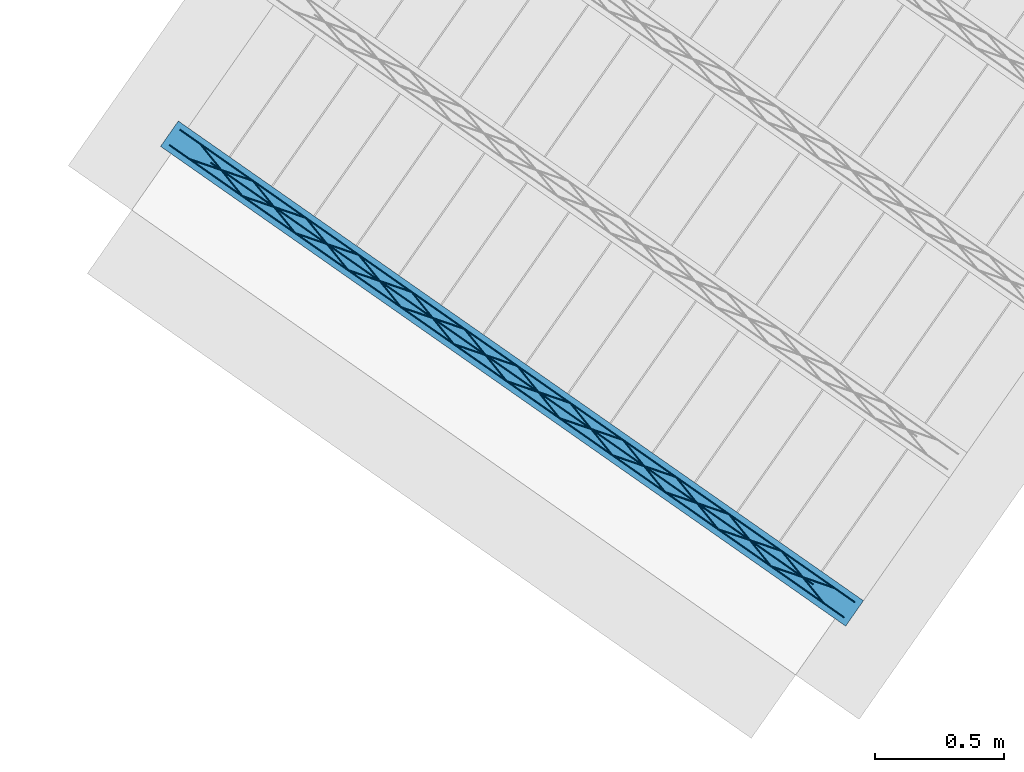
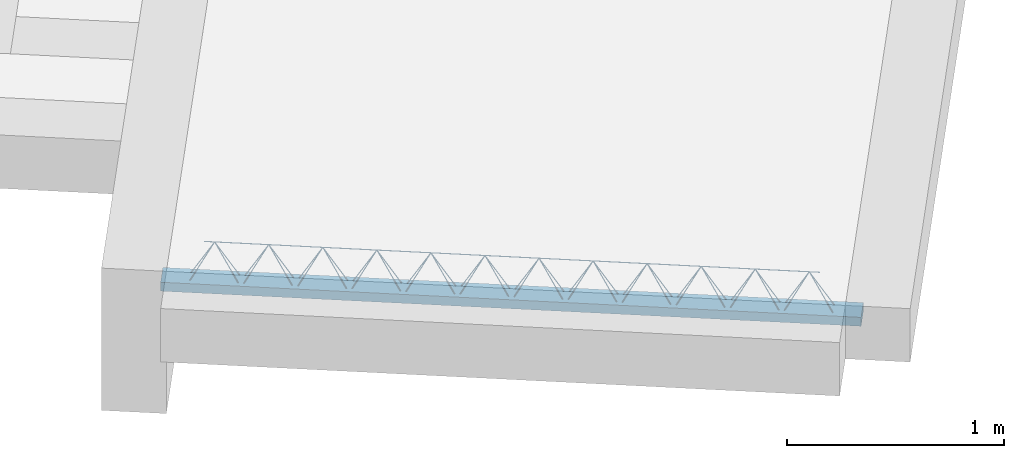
# One storey, part 1 of 46: 1 beam, 1 member.
"""IFC2X3 building model written with IfcOpenShell, lengths in metres."""

from ifc_helpers import new_model, entity, si_unit, converted_unit, derived_unit, direction, frame, frame_2d, origin, origin_2d_with_axis, place, context, subcontext, project, spatial, rectangle, circle, extrude, material, type_object, element, save


model = new_model("IFC2X3")

# Units and contexts
model_context = context("Model", 3, precision=1e-05, world=origin(), true_north=direction((6.123031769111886e-17, 1.0)))
body_context = subcontext(model_context, "Body", "Model", "MODEL_VIEW")
ifc_project = project(units=[si_unit("LENGTHUNIT", "METRE"), si_unit("AREAUNIT", "SQUARE_METRE"), si_unit("VOLUMEUNIT", "CUBIC_METRE"), converted_unit("PLANEANGLEUNIT", "DEGREE", entity("IfcPlaneAngleMeasure", 0.017453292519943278), si_unit("PLANEANGLEUNIT", "RADIAN"), dimensions=[0, 0, 0, 0, 0, 0, 0]), si_unit("MASSUNIT", "GRAM", prefix="KILO"), derived_unit("MASSDENSITYUNIT", [(si_unit("MASSUNIT", "GRAM", prefix="KILO"), 1), (si_unit("LENGTHUNIT", "METRE"), -3)]), derived_unit("IONCONCENTRATIONUNIT", [(si_unit("MASSUNIT", "GRAM", prefix="KILO"), 1), (si_unit("LENGTHUNIT", "METRE"), -3)]), derived_unit("MOMENTOFINERTIAUNIT", [(si_unit("LENGTHUNIT", "METRE"), 4)]), si_unit("TIMEUNIT", "SECOND"), si_unit("FREQUENCYUNIT", "HERTZ"), si_unit("THERMODYNAMICTEMPERATUREUNIT", "DEGREE_CELSIUS"), derived_unit("THERMALTRANSMITTANCEUNIT", [(si_unit("MASSUNIT", "GRAM", prefix="KILO"), 1), (si_unit("THERMODYNAMICTEMPERATUREUNIT", "KELVIN"), -1), (si_unit("TIMEUNIT", "SECOND"), -3)]), derived_unit("THERMALCONDUCTANCEUNIT", [(si_unit("MASSUNIT", "GRAM", prefix="KILO"), 1), (si_unit("THERMODYNAMICTEMPERATUREUNIT", "KELVIN"), -1), (si_unit("TIMEUNIT", "SECOND"), -3), (si_unit("LENGTHUNIT", "METRE"), 1)]), derived_unit("VOLUMETRICFLOWRATEUNIT", [(si_unit("LENGTHUNIT", "METRE", prefix="DECI"), 3), (si_unit("TIMEUNIT", "SECOND"), -1)]), derived_unit("MASSFLOWRATEUNIT", [(si_unit("MASSUNIT", "GRAM", prefix="KILO"), 1), (si_unit("TIMEUNIT", "SECOND"), -1)]), derived_unit("ROTATIONALFREQUENCYUNIT", [(si_unit("TIMEUNIT", "SECOND"), -1)]), si_unit("ELECTRICCURRENTUNIT", "AMPERE"), si_unit("ELECTRICVOLTAGEUNIT", "VOLT"), si_unit("POWERUNIT", "WATT"), si_unit("FORCEUNIT", "NEWTON", prefix="KILO"), si_unit("ILLUMINANCEUNIT", "LUX"), si_unit("LUMINOUSFLUXUNIT", "LUMEN"), si_unit("LUMINOUSINTENSITYUNIT", "CANDELA"), si_unit("ENERGYUNIT", "JOULE"), derived_unit("USERDEFINED", [(si_unit("MASSUNIT", "GRAM", prefix="KILO"), -1), (si_unit("LENGTHUNIT", "METRE"), -2), (si_unit("TIMEUNIT", "SECOND"), 3), (si_unit("LUMINOUSFLUXUNIT", "LUMEN"), 1)]), derived_unit("USERDEFINED", [(si_unit("MASSUNIT", "GRAM", prefix="KILO"), 1), (si_unit("TIMEUNIT", "SECOND"), -3), (si_unit("LENGTHUNIT", "METRE"), 3), (si_unit("ELECTRICCURRENTUNIT", "AMPERE"), -2)]), derived_unit("SOUNDPOWERUNIT", [(si_unit("MASSUNIT", "GRAM", prefix="KILO"), 1), (si_unit("TIMEUNIT", "SECOND"), -3), (si_unit("LENGTHUNIT", "METRE"), 2)]), derived_unit("SOUNDPRESSUREUNIT", [(si_unit("MASSUNIT", "GRAM", prefix="KILO"), 1), (si_unit("LENGTHUNIT", "METRE"), -1), (si_unit("TIMEUNIT", "SECOND"), -2)]), derived_unit("LINEARVELOCITYUNIT", [(si_unit("LENGTHUNIT", "METRE"), 1), (si_unit("TIMEUNIT", "SECOND"), -1)]), si_unit("PRESSUREUNIT", "PASCAL"), derived_unit("USERDEFINED", [(si_unit("MASSUNIT", "GRAM", prefix="KILO"), 1), (si_unit("LENGTHUNIT", "METRE"), -2), (si_unit("TIMEUNIT", "SECOND"), -2)]), derived_unit("LINEARFORCEUNIT", [(si_unit("MASSUNIT", "GRAM", prefix="KILO"), 1), (si_unit("TIMEUNIT", "SECOND"), -2)]), derived_unit("PLANARFORCEUNIT", [(si_unit("MASSUNIT", "GRAM", prefix="KILO"), 1), (si_unit("LENGTHUNIT", "METRE"), -1), (si_unit("TIMEUNIT", "SECOND"), -2)]), derived_unit("SPECIFICHEATCAPACITYUNIT", [(si_unit("THERMODYNAMICTEMPERATUREUNIT", "KELVIN"), -1), (si_unit("LENGTHUNIT", "METRE"), 2), (si_unit("TIMEUNIT", "SECOND"), -2)]), derived_unit("HEATFLUXDENSITYUNIT", [(si_unit("MASSUNIT", "GRAM", prefix="KILO"), 1), (si_unit("TIMEUNIT", "SECOND"), -3)]), derived_unit("HEATINGVALUEUNIT", [(si_unit("LENGTHUNIT", "METRE"), 2), (si_unit("TIMEUNIT", "SECOND"), -2)]), derived_unit("VAPORPERMEABILITYUNIT", [(si_unit("LENGTHUNIT", "METRE"), -1), (si_unit("TIMEUNIT", "SECOND"), 1)]), derived_unit("DYNAMICVISCOSITYUNIT", [(si_unit("MASSUNIT", "GRAM", prefix="KILO"), 1), (si_unit("TIMEUNIT", "SECOND"), -1), (si_unit("LENGTHUNIT", "METRE"), -1)]), derived_unit("THERMALEXPANSIONCOEFFICIENTUNIT", [(si_unit("THERMODYNAMICTEMPERATUREUNIT", "KELVIN"), -1)]), derived_unit("MODULUSOFELASTICITYUNIT", [(si_unit("MASSUNIT", "GRAM", prefix="KILO"), 1), (si_unit("LENGTHUNIT", "METRE"), -1), (si_unit("TIMEUNIT", "SECOND"), -2)]), derived_unit("ISOTHERMALMOISTURECAPACITYUNIT", [(si_unit("MASSUNIT", "GRAM", prefix="KILO"), -1), (si_unit("LENGTHUNIT", "METRE"), 3)]), derived_unit("MOISTUREDIFFUSIVITYUNIT", [(si_unit("TIMEUNIT", "SECOND"), -1), (si_unit("LENGTHUNIT", "METRE"), 2)]), derived_unit("MASSPERLENGTHUNIT", [(si_unit("MASSUNIT", "GRAM", prefix="KILO"), 1), (si_unit("LENGTHUNIT", "METRE"), -1)]), derived_unit("THERMALRESISTANCEUNIT", [(si_unit("MASSUNIT", "GRAM", prefix="KILO"), -1), (si_unit("TIMEUNIT", "SECOND"), 3), (si_unit("THERMODYNAMICTEMPERATUREUNIT", "KELVIN"), 1)]), derived_unit("ACCELERATIONUNIT", [(si_unit("LENGTHUNIT", "METRE"), 1), (si_unit("TIMEUNIT", "SECOND"), -2)]), derived_unit("ANGULARVELOCITYUNIT", [(si_unit("TIMEUNIT", "SECOND"), -1), (si_unit("PLANEANGLEUNIT", "RADIAN"), 1)]), derived_unit("LINEARSTIFFNESSUNIT", [(si_unit("MASSUNIT", "GRAM", prefix="KILO"), 1), (si_unit("TIMEUNIT", "SECOND"), -2)]), derived_unit("WARPINGCONSTANTUNIT", [(si_unit("LENGTHUNIT", "METRE"), 6)]), derived_unit("LINEARMOMENTUNIT", [(si_unit("MASSUNIT", "GRAM", prefix="KILO"), 1), (si_unit("LENGTHUNIT", "METRE"), 1), (si_unit("TIMEUNIT", "SECOND"), -2)]), derived_unit("TORQUEUNIT", [(si_unit("MASSUNIT", "GRAM", prefix="KILO"), 1), (si_unit("LENGTHUNIT", "METRE"), 2), (si_unit("TIMEUNIT", "SECOND"), -2)])], contexts=[model_context])

# Site, building, storey
site_placement = place(None, origin())
site = spatial("IfcSite", under=ifc_project, at=site_placement, Name="Default", CompositionType="ELEMENT")
building_placement = place(site_placement, origin())
building = spatial("IfcBuilding", under=site, at=building_placement, CompositionType="ELEMENT")
storey_placement = place(building_placement, frame((0.0, 0.0, 99.52000000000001)))
storey = spatial("IfcBuildingStorey", under=building, at=storey_placement, Name="F1", CompositionType="ELEMENT", Elevation=99.52000000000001)

# Member
member_type = type_object("IfcMemberType", Name="Celosía (Vigueta 1 - Paño 4)", PredefinedType="NOTDEFINED")
member_placement = place(storey_placement, origin())
element("IfcMember", 1, at=member_placement, inside=storey, type_object=member_type, Name="Celosía (Vigueta 1 - Paño 4)", context=body_context, shape_type="SweptSolid", body=[
    extrude(circle(Radius=0.0025, at=origin_2d_with_axis()), frame((4.454430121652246, -3.8340549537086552, 0.22500000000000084), z_axis=(0.8191520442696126, -0.5735764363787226, 0.0), x_axis=(-0.5735764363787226, -0.8191520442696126, 0.0)), (0.0, 0.0, 1.0), 3.191999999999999),
    extrude(circle(Radius=0.0025, at=origin_2d_with_axis()), frame((4.615153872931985, -3.902647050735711, 0.4500000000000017), z_axis=(0.8191520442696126, -0.5735764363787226, 0.0), x_axis=(-0.5735764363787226, -0.8191520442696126, 0.0)), (0.0, 0.0, 1.0), 2.849999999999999),
    extrude(circle(Radius=0.0025, at=origin_2d_with_axis()), frame((6.990524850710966, -5.609847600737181, 0.22500000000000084), z_axis=(-0.3145304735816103, 0.389334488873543, 0.8657304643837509), x_axis=(-0.7778747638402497, -0.6284193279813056, 0.0)), (0.0, 0.0, 1.0), 0.2598961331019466),
    extrude(circle(Radius=0.0025, at=origin_2d_with_axis()), frame((6.785736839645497, -5.466453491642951, 0.22499999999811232), z_axis=(0.47343050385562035, -0.1624017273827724, 0.8657304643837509), x_axis=(-0.3244721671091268, -0.9458952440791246, 0.0)), (0.0, 0.0, 1.0), 0.25989613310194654),
    extrude(circle(Radius=0.0025, at=origin_2d_with_axis()), frame((6.785736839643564, -5.4664534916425, 0.22500000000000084), z_axis=(-0.3145304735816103, 0.389334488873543, 0.8657304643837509), x_axis=(-0.7778747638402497, -0.6284193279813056, 0.0)), (0.0, 0.0, 1.0), 0.2598961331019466),
    extrude(circle(Radius=0.0025, at=origin_2d_with_axis()), frame((6.580948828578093, -5.323059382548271, 0.22499999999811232), z_axis=(0.47343050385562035, -0.1624017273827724, 0.8657304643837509), x_axis=(-0.3244721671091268, -0.9458952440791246, 0.0)), (0.0, 0.0, 1.0), 0.25989613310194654),
    extrude(circle(Radius=0.0025, at=origin_2d_with_axis()), frame((6.580948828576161, -5.323059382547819, 0.22500000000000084), z_axis=(-0.3145304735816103, 0.389334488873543, 0.8657304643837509), x_axis=(-0.7778747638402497, -0.6284193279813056, 0.0)), (0.0, 0.0, 1.0), 0.2598961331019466),
    extrude(circle(Radius=0.0025, at=origin_2d_with_axis()), frame((6.37616081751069, -5.1796652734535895, 0.22499999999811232), z_axis=(0.47343050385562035, -0.1624017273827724, 0.8657304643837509), x_axis=(-0.3244721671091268, -0.9458952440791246, 0.0)), (0.0, 0.0, 1.0), 0.25989613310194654),
    extrude(circle(Radius=0.0025, at=origin_2d_with_axis()), frame((6.376160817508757, -5.179665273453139, 0.22500000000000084), z_axis=(-0.3145304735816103, 0.389334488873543, 0.8657304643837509), x_axis=(-0.7778747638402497, -0.6284193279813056, 0.0)), (0.0, 0.0, 1.0), 0.2598961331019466),
    extrude(circle(Radius=0.0025, at=origin_2d_with_axis()), frame((6.171372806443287, -5.036271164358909, 0.22499999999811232), z_axis=(0.47343050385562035, -0.1624017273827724, 0.8657304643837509), x_axis=(-0.3244721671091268, -0.9458952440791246, 0.0)), (0.0, 0.0, 1.0), 0.25989613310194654),
    extrude(circle(Radius=0.0025, at=origin_2d_with_axis()), frame((6.171372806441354, -5.036271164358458, 0.22500000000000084), z_axis=(-0.3145304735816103, 0.389334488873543, 0.8657304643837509), x_axis=(-0.7778747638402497, -0.6284193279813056, 0.0)), (0.0, 0.0, 1.0), 0.2598961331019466),
    extrude(circle(Radius=0.0025, at=origin_2d_with_axis()), frame((5.966584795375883, -4.892877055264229, 0.22499999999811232), z_axis=(0.47343050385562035, -0.1624017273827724, 0.8657304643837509), x_axis=(-0.3244721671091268, -0.9458952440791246, 0.0)), (0.0, 0.0, 1.0), 0.25989613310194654),
    extrude(circle(Radius=0.0025, at=origin_2d_with_axis()), frame((5.966584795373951, -4.892877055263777, 0.22500000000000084), z_axis=(-0.3145304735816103, 0.389334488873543, 0.8657304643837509), x_axis=(-0.7778747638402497, -0.6284193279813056, 0.0)), (0.0, 0.0, 1.0), 0.2598961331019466),
    extrude(circle(Radius=0.0025, at=origin_2d_with_axis()), frame((5.76179678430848, -4.749482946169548, 0.22499999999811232), z_axis=(0.47343050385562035, -0.1624017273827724, 0.8657304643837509), x_axis=(-0.3244721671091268, -0.9458952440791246, 0.0)), (0.0, 0.0, 1.0), 0.25989613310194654),
    extrude(circle(Radius=0.0025, at=origin_2d_with_axis()), frame((5.761796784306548, -4.749482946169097, 0.22500000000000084), z_axis=(-0.3145304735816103, 0.389334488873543, 0.8657304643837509), x_axis=(-0.7778747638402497, -0.6284193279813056, 0.0)), (0.0, 0.0, 1.0), 0.2598961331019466),
    extrude(circle(Radius=0.0025, at=origin_2d_with_axis()), frame((5.557008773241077, -4.606088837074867, 0.22499999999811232), z_axis=(0.47343050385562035, -0.1624017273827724, 0.8657304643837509), x_axis=(-0.3244721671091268, -0.9458952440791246, 0.0)), (0.0, 0.0, 1.0), 0.25989613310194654),
    extrude(circle(Radius=0.0025, at=origin_2d_with_axis()), frame((5.557008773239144, -4.606088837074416, 0.22500000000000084), z_axis=(-0.3145304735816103, 0.389334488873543, 0.8657304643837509), x_axis=(-0.7778747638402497, -0.6284193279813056, 0.0)), (0.0, 0.0, 1.0), 0.2598961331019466),
    extrude(circle(Radius=0.0025, at=origin_2d_with_axis()), frame((5.352220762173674, -4.462694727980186, 0.22499999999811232), z_axis=(0.47343050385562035, -0.1624017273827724, 0.8657304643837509), x_axis=(-0.3244721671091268, -0.9458952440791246, 0.0)), (0.0, 0.0, 1.0), 0.25989613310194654),
    extrude(circle(Radius=0.0025, at=origin_2d_with_axis()), frame((5.352220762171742, -4.462694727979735, 0.22500000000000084), z_axis=(-0.3145304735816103, 0.389334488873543, 0.8657304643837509), x_axis=(-0.7778747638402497, -0.6284193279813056, 0.0)), (0.0, 0.0, 1.0), 0.2598961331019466),
    extrude(circle(Radius=0.0025, at=origin_2d_with_axis()), frame((5.147432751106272, -4.319300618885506, 0.22499999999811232), z_axis=(0.47343050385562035, -0.1624017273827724, 0.8657304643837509), x_axis=(-0.3244721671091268, -0.9458952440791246, 0.0)), (0.0, 0.0, 1.0), 0.25989613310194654),
    extrude(circle(Radius=0.0025, at=origin_2d_with_axis()), frame((5.147432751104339, -4.3193006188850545, 0.22500000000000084), z_axis=(-0.3145304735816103, 0.389334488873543, 0.8657304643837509), x_axis=(-0.7778747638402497, -0.6284193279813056, 0.0)), (0.0, 0.0, 1.0), 0.2598961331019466),
    extrude(circle(Radius=0.0025, at=origin_2d_with_axis()), frame((4.942644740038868, -4.175906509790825, 0.22499999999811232), z_axis=(0.47343050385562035, -0.1624017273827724, 0.8657304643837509), x_axis=(-0.3244721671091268, -0.9458952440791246, 0.0)), (0.0, 0.0, 1.0), 0.25989613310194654),
    extrude(circle(Radius=0.0025, at=origin_2d_with_axis()), frame((4.942644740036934, -4.175906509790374, 0.22500000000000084), z_axis=(-0.3145304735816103, 0.389334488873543, 0.8657304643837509), x_axis=(-0.7778747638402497, -0.6284193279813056, 0.0)), (0.0, 0.0, 1.0), 0.2598961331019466),
    extrude(circle(Radius=0.0025, at=origin_2d_with_axis()), frame((4.737856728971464, -4.032512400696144, 0.22499999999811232), z_axis=(0.47343050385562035, -0.1624017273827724, 0.8657304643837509), x_axis=(-0.3244721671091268, -0.9458952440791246, 0.0)), (0.0, 0.0, 1.0), 0.25989613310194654),
    extrude(circle(Radius=0.0025, at=origin_2d_with_axis()), frame((4.737856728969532, -4.032512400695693, 0.22500000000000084), z_axis=(-0.3145304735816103, 0.389334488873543, 0.8657304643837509), x_axis=(-0.7778747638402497, -0.6284193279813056, 0.0)), (0.0, 0.0, 1.0), 0.2598961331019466),
    extrude(circle(Radius=0.0025, at=origin_2d_with_axis()), frame((4.533068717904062, -3.8891182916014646, 0.22499999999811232), z_axis=(0.47343050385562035, -0.1624017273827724, 0.8657304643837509), x_axis=(-0.3244721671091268, -0.9458952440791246, 0.0)), (0.0, 0.0, 1.0), 0.25989613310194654),
    extrude(circle(Radius=0.0025, at=origin_2d_with_axis()), frame((4.495727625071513, -3.7750760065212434, 0.22500000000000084), z_axis=(0.8191520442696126, -0.5735764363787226, 0.0), x_axis=(-0.5735764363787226, -0.8191520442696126, 0.0)), (0.0, 0.0, 1.0), 3.191999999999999),
    extrude(circle(Radius=0.0025, at=origin_2d_with_axis()), frame((7.0318223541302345, -5.550868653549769, 0.22500000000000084), z_axis=(-0.47343050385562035, 0.1624017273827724, 0.8657304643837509), x_axis=(-0.3244721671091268, -0.9458952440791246, 0.0)), (0.0, 0.0, 1.0), 0.25989613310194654),
    extrude(circle(Radius=0.0025, at=origin_2d_with_axis()), frame((6.827034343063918, -5.407474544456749, 0.22499999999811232), z_axis=(0.3145304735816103, -0.389334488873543, 0.8657304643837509), x_axis=(-0.7778747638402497, -0.6284193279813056, 0.0)), (0.0, 0.0, 1.0), 0.2598961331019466),
    extrude(circle(Radius=0.0025, at=origin_2d_with_axis()), frame((6.827034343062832, -5.407474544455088, 0.22500000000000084), z_axis=(-0.47343050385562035, 0.1624017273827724, 0.8657304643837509), x_axis=(-0.3244721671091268, -0.9458952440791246, 0.0)), (0.0, 0.0, 1.0), 0.25989613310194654),
    extrude(circle(Radius=0.0025, at=origin_2d_with_axis()), frame((6.6222463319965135, -5.264080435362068, 0.22499999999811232), z_axis=(0.3145304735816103, -0.389334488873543, 0.8657304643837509), x_axis=(-0.7778747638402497, -0.6284193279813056, 0.0)), (0.0, 0.0, 1.0), 0.2598961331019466),
    extrude(circle(Radius=0.0025, at=origin_2d_with_axis()), frame((6.622246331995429, -5.264080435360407, 0.22500000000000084), z_axis=(-0.47343050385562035, 0.1624017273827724, 0.8657304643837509), x_axis=(-0.3244721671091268, -0.9458952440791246, 0.0)), (0.0, 0.0, 1.0), 0.25989613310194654),
    extrude(circle(Radius=0.0025, at=origin_2d_with_axis()), frame((6.417458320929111, -5.120686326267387, 0.22499999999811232), z_axis=(0.3145304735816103, -0.389334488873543, 0.8657304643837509), x_axis=(-0.7778747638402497, -0.6284193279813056, 0.0)), (0.0, 0.0, 1.0), 0.2598961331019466),
    extrude(circle(Radius=0.0025, at=origin_2d_with_axis()), frame((6.4174583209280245, -5.1206863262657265, 0.22500000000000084), z_axis=(-0.47343050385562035, 0.1624017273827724, 0.8657304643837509), x_axis=(-0.3244721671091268, -0.9458952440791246, 0.0)), (0.0, 0.0, 1.0), 0.25989613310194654),
    extrude(circle(Radius=0.0025, at=origin_2d_with_axis()), frame((6.212670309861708, -4.977292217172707, 0.22499999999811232), z_axis=(0.3145304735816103, -0.389334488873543, 0.8657304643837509), x_axis=(-0.7778747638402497, -0.6284193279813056, 0.0)), (0.0, 0.0, 1.0), 0.2598961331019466),
    extrude(circle(Radius=0.0025, at=origin_2d_with_axis()), frame((6.212670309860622, -4.977292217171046, 0.22500000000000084), z_axis=(-0.47343050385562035, 0.1624017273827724, 0.8657304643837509), x_axis=(-0.3244721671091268, -0.9458952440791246, 0.0)), (0.0, 0.0, 1.0), 0.25989613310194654),
    extrude(circle(Radius=0.0025, at=origin_2d_with_axis()), frame((6.0078822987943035, -4.833898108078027, 0.22499999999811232), z_axis=(0.3145304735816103, -0.389334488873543, 0.8657304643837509), x_axis=(-0.7778747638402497, -0.6284193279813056, 0.0)), (0.0, 0.0, 1.0), 0.2598961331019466),
    extrude(circle(Radius=0.0025, at=origin_2d_with_axis()), frame((6.007882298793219, -4.833898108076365, 0.22500000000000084), z_axis=(-0.47343050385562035, 0.1624017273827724, 0.8657304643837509), x_axis=(-0.3244721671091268, -0.9458952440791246, 0.0)), (0.0, 0.0, 1.0), 0.25989613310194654),
    extrude(circle(Radius=0.0025, at=origin_2d_with_axis()), frame((5.803094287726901, -4.690503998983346, 0.22499999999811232), z_axis=(0.3145304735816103, -0.389334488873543, 0.8657304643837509), x_axis=(-0.7778747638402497, -0.6284193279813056, 0.0)), (0.0, 0.0, 1.0), 0.2598961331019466),
    extrude(circle(Radius=0.0025, at=origin_2d_with_axis()), frame((5.803094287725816, -4.690503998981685, 0.22500000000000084), z_axis=(-0.47343050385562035, 0.1624017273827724, 0.8657304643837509), x_axis=(-0.3244721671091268, -0.9458952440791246, 0.0)), (0.0, 0.0, 1.0), 0.25989613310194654),
    extrude(circle(Radius=0.0025, at=origin_2d_with_axis()), frame((5.598306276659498, -4.547109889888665, 0.22499999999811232), z_axis=(0.3145304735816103, -0.389334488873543, 0.8657304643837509), x_axis=(-0.7778747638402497, -0.6284193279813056, 0.0)), (0.0, 0.0, 1.0), 0.2598961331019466),
    extrude(circle(Radius=0.0025, at=origin_2d_with_axis()), frame((5.598306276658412, -4.547109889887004, 0.22500000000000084), z_axis=(-0.47343050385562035, 0.1624017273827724, 0.8657304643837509), x_axis=(-0.3244721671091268, -0.9458952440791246, 0.0)), (0.0, 0.0, 1.0), 0.25989613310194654),
    extrude(circle(Radius=0.0025, at=origin_2d_with_axis()), frame((5.393518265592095, -4.403715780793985, 0.22499999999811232), z_axis=(0.3145304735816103, -0.389334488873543, 0.8657304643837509), x_axis=(-0.7778747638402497, -0.6284193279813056, 0.0)), (0.0, 0.0, 1.0), 0.2598961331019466),
    extrude(circle(Radius=0.0025, at=origin_2d_with_axis()), frame((5.393518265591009, -4.403715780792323, 0.22500000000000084), z_axis=(-0.47343050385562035, 0.1624017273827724, 0.8657304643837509), x_axis=(-0.3244721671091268, -0.9458952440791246, 0.0)), (0.0, 0.0, 1.0), 0.25989613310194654),
    extrude(circle(Radius=0.0025, at=origin_2d_with_axis()), frame((5.1887302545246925, -4.260321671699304, 0.22499999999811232), z_axis=(0.3145304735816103, -0.389334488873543, 0.8657304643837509), x_axis=(-0.7778747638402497, -0.6284193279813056, 0.0)), (0.0, 0.0, 1.0), 0.2598961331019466),
    extrude(circle(Radius=0.0025, at=origin_2d_with_axis()), frame((5.188730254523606, -4.260321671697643, 0.22500000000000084), z_axis=(-0.47343050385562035, 0.1624017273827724, 0.8657304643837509), x_axis=(-0.3244721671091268, -0.9458952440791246, 0.0)), (0.0, 0.0, 1.0), 0.25989613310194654),
    extrude(circle(Radius=0.0025, at=origin_2d_with_axis()), frame((4.983942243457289, -4.116927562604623, 0.22499999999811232), z_axis=(0.3145304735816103, -0.389334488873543, 0.8657304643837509), x_axis=(-0.7778747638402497, -0.6284193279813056, 0.0)), (0.0, 0.0, 1.0), 0.2598961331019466),
    extrude(circle(Radius=0.0025, at=origin_2d_with_axis()), frame((4.983942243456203, -4.116927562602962, 0.22500000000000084), z_axis=(-0.47343050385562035, 0.1624017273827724, 0.8657304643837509), x_axis=(-0.3244721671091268, -0.9458952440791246, 0.0)), (0.0, 0.0, 1.0), 0.25989613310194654),
    extrude(circle(Radius=0.0025, at=origin_2d_with_axis()), frame((4.779154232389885, -3.9735334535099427, 0.22499999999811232), z_axis=(0.3145304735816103, -0.389334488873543, 0.8657304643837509), x_axis=(-0.7778747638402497, -0.6284193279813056, 0.0)), (0.0, 0.0, 1.0), 0.2598961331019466),
    extrude(circle(Radius=0.0025, at=origin_2d_with_axis()), frame((4.779154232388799, -3.9735334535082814, 0.22500000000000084), z_axis=(-0.47343050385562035, 0.1624017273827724, 0.8657304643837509), x_axis=(-0.3244721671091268, -0.9458952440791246, 0.0)), (0.0, 0.0, 1.0), 0.25989613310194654),
    extrude(circle(Radius=0.0025, at=origin_2d_with_axis()), frame((4.5743662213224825, -3.8301393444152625, 0.22499999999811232), z_axis=(0.3145304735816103, -0.389334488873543, 0.8657304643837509), x_axis=(-0.7778747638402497, -0.6284193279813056, 0.0)), (0.0, 0.0, 1.0), 0.2598961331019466),
])

# Beam
ifc_material = material(Name="Hormigón armado")
beam_placement = place(storey_placement, origin())
element("IfcBeam", 2, at=beam_placement, inside=storey, material=ifc_material, Name="238277", context=body_context, shape_type="SweptSolid", body=[
    extrude(rectangle(XDim=0.04999999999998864, YDim=0.11999999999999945, at=frame_2d((0.0, -1.5265566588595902e-16), x_axis=(1.0, 0.0))), frame((4.455419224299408, -3.7907996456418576, 0.22500000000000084), z_axis=(0.819152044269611, -0.5735764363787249, 0.0), x_axis=(0.0, 0.0, -1.0)), (0.0, 0.0, 1.0), 3.240000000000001),
])

save(model, "model.ifc")
